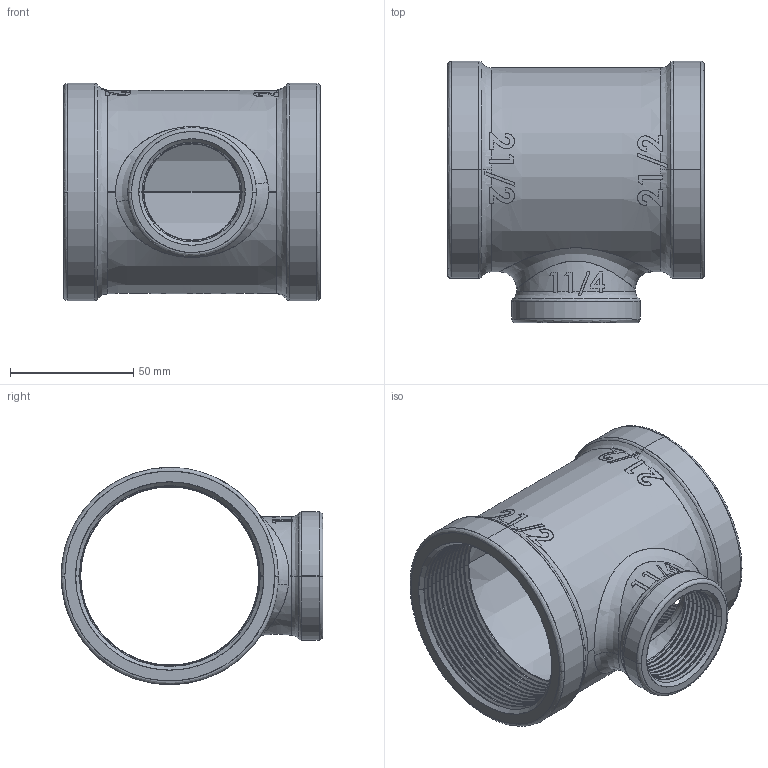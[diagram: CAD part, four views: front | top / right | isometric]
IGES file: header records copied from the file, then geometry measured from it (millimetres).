
Start section: SolidWorks IGES file using analytic representation for surfaces
Global section: file name: C:\Users\Joel Rosa\Desktop\Tubulação\12-45-XXX\12-45-049.IGS; native system: SolidWorks 2011; preprocessor: SolidWorks 2011; author: Joel Rosa; date: 121212.234444; units: millimetre
Bounding box: 104 x 106 x 88 mm (x, y, z)
Surface area: 69991.8 mm2 (no closed solid volume)
Topology: 0 solids, 0 shells, 541 faces, 5349 edges, 5349 vertices
Faces by surface type: bspline 375, revolution 166
